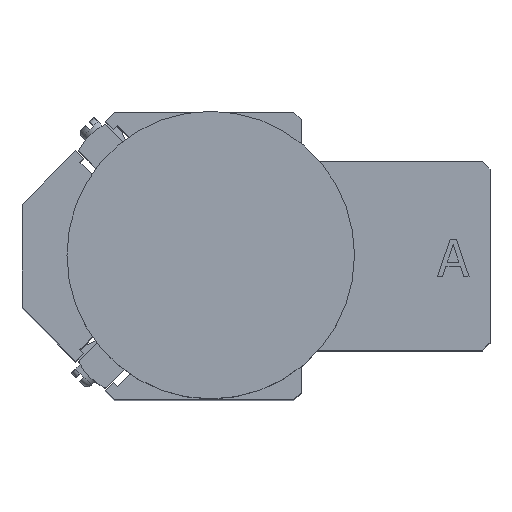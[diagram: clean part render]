
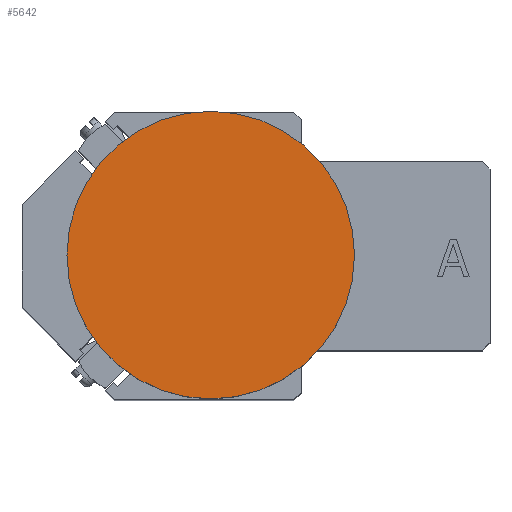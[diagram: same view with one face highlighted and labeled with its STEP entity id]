
A CAD part, top view. The second image highlights one B-rep face of the part: STEP entity #5642.
In plain terms, the highlighted planar face has unit normal (0, 0, 1) as drawn and (1, 0, 0) by its records, which use the part's own axes.
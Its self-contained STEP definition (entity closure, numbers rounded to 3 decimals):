
#480=PLANE('',#6457);
#764=FACE_OUTER_BOUND('',#1101,.T.);
#1101=EDGE_LOOP('',(#5230,#5231));
#2367=CIRCLE('',#6458,19.05);
#2368=CIRCLE('',#6459,19.05);
#2906=VERTEX_POINT('',#9825);
#2907=VERTEX_POINT('',#9826);
#3688=EDGE_CURVE('',#2906,#2907,#2367,.T.);
#3689=EDGE_CURVE('',#2907,#2906,#2368,.T.);
#5230=ORIENTED_EDGE('',*,*,#3688,.F.);
#5231=ORIENTED_EDGE('',*,*,#3689,.F.);
#5642=ADVANCED_FACE('',(#764),#480,.T.);
#6457=AXIS2_PLACEMENT_3D('',#9824,#8059,#8060);
#6458=AXIS2_PLACEMENT_3D('',#9827,#8061,#8062);
#6459=AXIS2_PLACEMENT_3D('',#9828,#8063,#8064);
#8059=DIRECTION('center_axis',(1.,0.,0.));
#8060=DIRECTION('ref_axis',(0.,0.,-1.));
#8061=DIRECTION('center_axis',(-1.,0.,0.));
#8062=DIRECTION('ref_axis',(0.,-1.,0.));
#8063=DIRECTION('center_axis',(-1.,0.,0.));
#8064=DIRECTION('ref_axis',(0.,-1.,0.));
#9824=CARTESIAN_POINT('Origin',(13.,-9.525,0.));
#9825=CARTESIAN_POINT('',(13.,-19.05,0.));
#9826=CARTESIAN_POINT('',(13.,19.05,0.));
#9827=CARTESIAN_POINT('Origin',(13.,0.,0.));
#9828=CARTESIAN_POINT('Origin',(13.,0.,0.));
